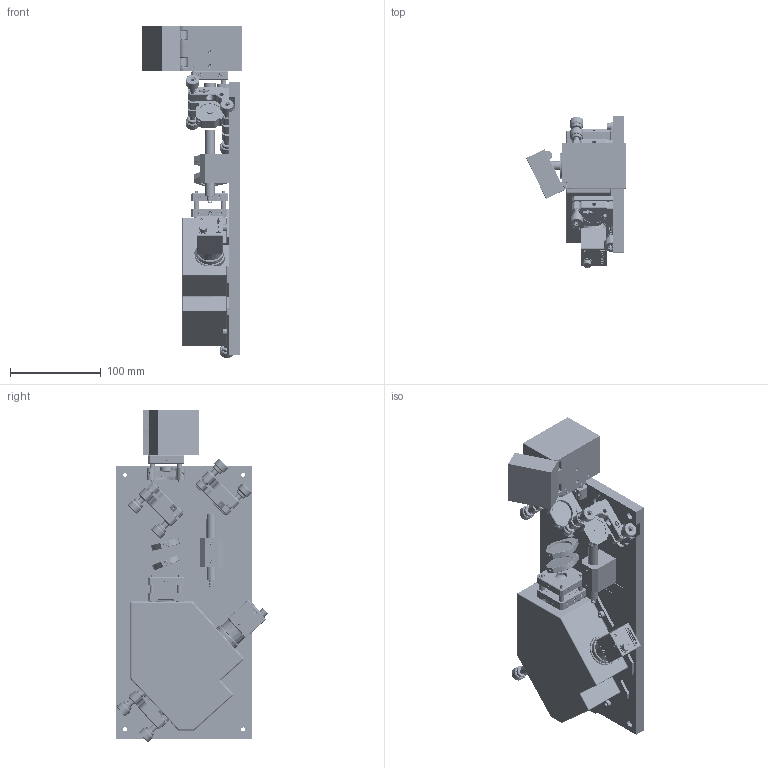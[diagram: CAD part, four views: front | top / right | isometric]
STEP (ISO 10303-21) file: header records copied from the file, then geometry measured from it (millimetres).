
FILE_DESCRIPTION (( 'STEP AP214' ), '1' );
FILE_NAME ('2020-06_1 - STARTER EDITION ASSY.STEP', '2020-10-10T11:11:47', ( '' ), ( '' ), 'SwSTEP 2.0', 'SolidWorks 2018', '' );
FILE_SCHEMA (( 'AUTOMOTIVE_DESIGN' ));
Length unit declared in the file: millimetre
Products named in the file (37): ER1.5; 2020-01_1 - CAMERA BRACKET; 2020-08 - CUVETTE HOLDER BODY; ER3; 2020-03_1 - COVER; MVL50M23; 2020-07_0 - OPTICAL DESIGN B; CP14_Web Assembly; 2020-09 - CUVETTE HOLDER CAP; 2020-10_1 - CUVETTE HOLDER ASSY; KM100; OR-5X1-NBR70; 2020-02_1 - BASE PLATE; 2020-05_0 - LASER HOLDER; FLIR-BFS-U3-200S6M-C; DIN912 M4x10; tube; CP02B; CPS532; 2020-15_0 - GRATING HOLDER; CRM1_M; DJ532-40; FMP1; switch; axis; P10D; 1inch disk; 2020-04_1 - PERFORMANCE EDITION ASSY; CP35M; folded.stp; DIN912 M4x12; laser.stp; 2020-06_1 - STARTER EDITION ASSY; SS4MN4; 2020-11 - CUVETTE HOLDER OPTICAL DESIGN; DIN912 8_32x3_8; DIN912 M4x6
Assembly tree (66 placements, depth 4):
  2020-06_1 - STARTER EDITION ASSY
    2020-04_1 - PERFORMANCE EDITION ASSY
      2020-02_1 - BASE PLATE
      KM100  x3
      FMP1  x2
      CP14_Web Assembly
      CP35M  x2
      CRM1_M
      MVL50M23
      P10D
      CP02B  x2
      ER3  x4
      2020-10_1 - CUVETTE HOLDER ASSY
        2020-08 - CUVETTE HOLDER BODY
        2020-11 - CUVETTE HOLDER OPTICAL DESIGN
        2020-09 - CUVETTE HOLDER CAP
        axis
        tube
        switch
        SS4MN4  x2
      ER1.5  x2
      2020-07_0 - OPTICAL DESIGN B
      2020-03_1 - COVER
      FLIR-BFS-U3-200S6M-C
      2020-01_1 - CAMERA BRACKET
      DIN912 M4x6  x3
      DIN912 M4x10  x6
      DIN912 M4x12  x6
      SS4MN4  x3
      DJ532-40
      OR-5X1-NBR70
      folded.stp
      laser.stp
      DIN912 8_32x3_8  x2
      1inch disk
      2020-15_0 - GRATING HOLDER
    CPS532
    2020-05_0 - LASER HOLDER
    DIN912 M4x12  x2
    SS4MN4  x2
Bounding box: 109.3 x 167.4 x 365.21 mm (x, y, z)
Volume: 1059816.7 mm3; surface area: 387112.5 mm2
Topology: 183 solids, 190 shells, 10020 faces, 25677 edges, 16577 vertices
Faces by surface type: plane 4814, cylinder 2116, bspline 1673, cone 1246, torus 104, sphere 67
Entity records: 339306 total; most frequent: CARTESIAN_POINT 120245, ORIENTED_EDGE 34916, DIRECTION 28860, EDGE_CURVE 17485, VERTEX_POINT 11538, AXIS2_PLACEMENT_3D 9667, VECTOR 9526, LINE 9526
